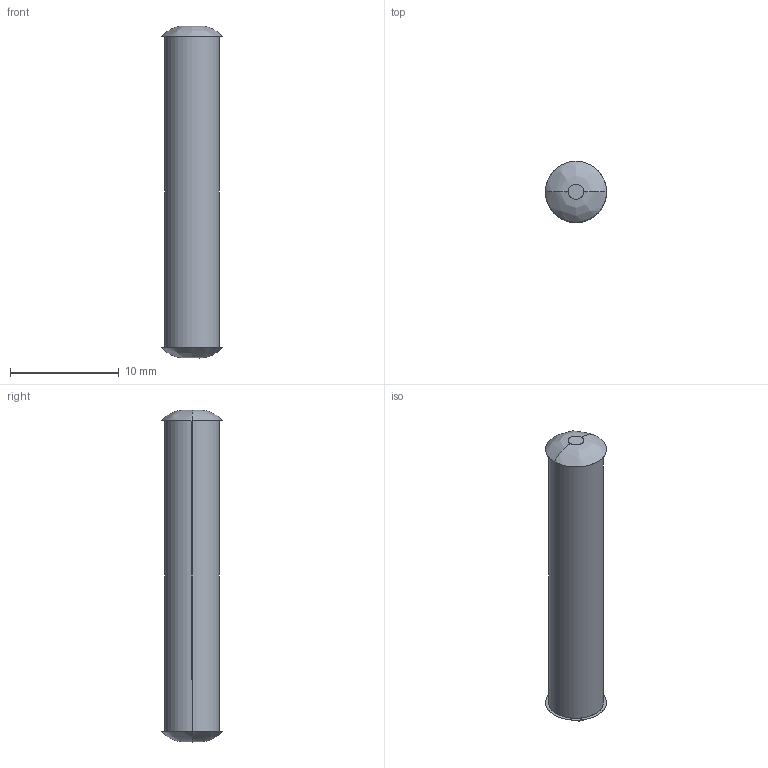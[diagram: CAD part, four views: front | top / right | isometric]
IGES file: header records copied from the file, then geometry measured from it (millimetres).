
Start section: SolidWorks IGES FILE using analytic representation for surfaces
Global section: file name: C:\Documents and Settings\brechard\Bureau\GE 92\50.100.10.IGS; native system: SolidWorks 2001Plus by SolidWorks Corporation; preprocessor: Version 5.3; author: brechard; date: 050126.112357; units: millimetre
Bounding box: 5.6 x 5.6 x 30.5 mm (x, y, z)
Surface area: 515.9 mm2 (no closed solid volume)
Topology: 0 solids, 0 shells, 10 faces, 184 edges, 184 vertices
Faces by surface type: bspline 8, revolution 2
